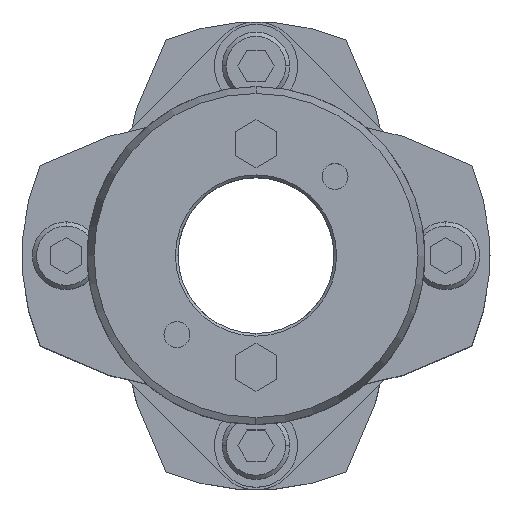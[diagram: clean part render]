
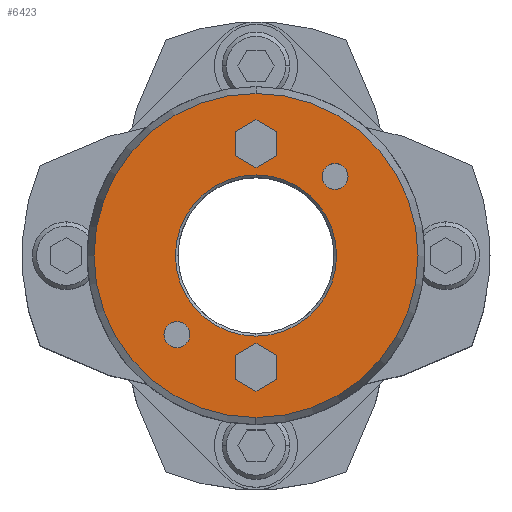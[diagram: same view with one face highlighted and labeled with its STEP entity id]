
A CAD part, top view. The second image highlights one B-rep face of the part: STEP entity #6423.
In plain terms, the highlighted planar face has unit normal (0, 0, 1).
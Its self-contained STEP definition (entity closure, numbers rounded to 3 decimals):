
#1677=CARTESIAN_POINT('',(0.,15.5,52.0));
#1678=VERTEX_POINT('',#1677);
#1694=CARTESIAN_POINT('',(0.,-15.5,52.0));
#1695=VERTEX_POINT('',#1694);
#1702=CARTESIAN_POINT('',(0.,0.,52.0));
#1703=DIRECTION('',(0.0,0.0,1.0));
#1704=DIRECTION('',(0.0,1.0,0.0));
#1705=AXIS2_PLACEMENT_3D('',#1702,#1703,#1704);
#1706=CIRCLE('',#1705,15.5);
#1707=EDGE_CURVE('',#1695,#1678,#1706,.T.);
#1823=CARTESIAN_POINT('',(0.,-31.16,52.0));
#1824=VERTEX_POINT('',#1823);
#1833=CARTESIAN_POINT('',(0.,31.16,52.0));
#1834=VERTEX_POINT('',#1833);
#1835=CARTESIAN_POINT('',(0.,0.,52.0));
#1836=DIRECTION('',(0.0,0.0,-1.0));
#1837=DIRECTION('',(0.0,-1.0,0.0));
#1838=AXIS2_PLACEMENT_3D('',#1835,#1836,#1837);
#1839=CIRCLE('',#1838,31.16);
#1840=EDGE_CURVE('',#1824,#1834,#1839,.T.);
#2157=CARTESIAN_POINT('',(15.203,17.703,52.0));
#2158=VERTEX_POINT('',#2157);
#2174=CARTESIAN_POINT('',(15.203,12.703,52.0));
#2175=VERTEX_POINT('',#2174);
#2182=CARTESIAN_POINT('',(15.203,15.203,52.0));
#2183=DIRECTION('',(0.0,0.0,-1.0));
#2184=DIRECTION('',(0.0,1.0,0.0));
#2185=AXIS2_PLACEMENT_3D('',#2182,#2183,#2184);
#2186=CIRCLE('',#2185,2.5);
#2187=EDGE_CURVE('',#2158,#2175,#2186,.T.);
#2199=CARTESIAN_POINT('',(-15.203,-12.703,52.0));
#2200=VERTEX_POINT('',#2199);
#2216=CARTESIAN_POINT('',(-15.203,-17.703,52.0));
#2217=VERTEX_POINT('',#2216);
#2224=CARTESIAN_POINT('',(-15.203,-15.203,52.0));
#2225=DIRECTION('',(0.0,0.0,-1.0));
#2226=DIRECTION('',(0.0,1.0,0.0));
#2227=AXIS2_PLACEMENT_3D('',#2224,#2225,#2226);
#2228=CIRCLE('',#2227,2.5);
#2229=EDGE_CURVE('',#2200,#2217,#2228,.T.);
#5029=CARTESIAN_POINT('',(0.,-16.881,52.0));
#5030=VERTEX_POINT('',#5029);
#5037=CARTESIAN_POINT('',(-4.,-19.191,52.0));
#5038=VERTEX_POINT('',#5037);
#5039=CARTESIAN_POINT('',(-4.,-19.191,52.0));
#5040=DIRECTION('',(0.866,0.5,0.0));
#5041=VECTOR('',#5040,4.619);
#5042=LINE('',#5039,#5041);
#5043=EDGE_CURVE('',#5038,#5030,#5042,.T.);
#5067=CARTESIAN_POINT('',(4.,-19.191,52.0));
#5068=VERTEX_POINT('',#5067);
#5075=CARTESIAN_POINT('',(0.,-16.881,52.0));
#5076=DIRECTION('',(0.866,-0.5,0.0));
#5077=VECTOR('',#5076,4.619);
#5078=LINE('',#5075,#5077);
#5079=EDGE_CURVE('',#5030,#5068,#5078,.T.);
#5098=CARTESIAN_POINT('',(4.,-23.809,52.0));
#5099=VERTEX_POINT('',#5098);
#5106=CARTESIAN_POINT('',(4.,-19.191,52.0));
#5107=DIRECTION('',(0.0,-1.0,0.0));
#5108=VECTOR('',#5107,4.619);
#5109=LINE('',#5106,#5108);
#5110=EDGE_CURVE('',#5068,#5099,#5109,.T.);
#5129=CARTESIAN_POINT('',(0.,-26.119,52.0));
#5130=VERTEX_POINT('',#5129);
#5137=CARTESIAN_POINT('',(4.,-23.809,52.0));
#5138=DIRECTION('',(-0.866,-0.5,0.0));
#5139=VECTOR('',#5138,4.619);
#5140=LINE('',#5137,#5139);
#5141=EDGE_CURVE('',#5099,#5130,#5140,.T.);
#5160=CARTESIAN_POINT('',(-4.,-23.809,52.0));
#5161=VERTEX_POINT('',#5160);
#5168=CARTESIAN_POINT('',(0.,-26.119,52.0));
#5169=DIRECTION('',(-0.866,0.5,0.0));
#5170=VECTOR('',#5169,4.619);
#5171=LINE('',#5168,#5170);
#5172=EDGE_CURVE('',#5130,#5161,#5171,.T.);
#5190=CARTESIAN_POINT('',(-4.,-23.809,52.0));
#5191=DIRECTION('',(0.0,1.0,0.0));
#5192=VECTOR('',#5191,4.619);
#5193=LINE('',#5190,#5192);
#5194=EDGE_CURVE('',#5161,#5038,#5193,.T.);
#5229=CARTESIAN_POINT('',(0.,26.119,52.0));
#5230=VERTEX_POINT('',#5229);
#5237=CARTESIAN_POINT('',(-4.,23.809,52.0));
#5238=VERTEX_POINT('',#5237);
#5239=CARTESIAN_POINT('',(-4.,23.809,52.0));
#5240=DIRECTION('',(0.866,0.5,0.0));
#5241=VECTOR('',#5240,4.619);
#5242=LINE('',#5239,#5241);
#5243=EDGE_CURVE('',#5238,#5230,#5242,.T.);
#5267=CARTESIAN_POINT('',(4.,23.809,52.0));
#5268=VERTEX_POINT('',#5267);
#5275=CARTESIAN_POINT('',(0.,26.119,52.0));
#5276=DIRECTION('',(0.866,-0.5,0.0));
#5277=VECTOR('',#5276,4.619);
#5278=LINE('',#5275,#5277);
#5279=EDGE_CURVE('',#5230,#5268,#5278,.T.);
#5298=CARTESIAN_POINT('',(4.,19.191,52.0));
#5299=VERTEX_POINT('',#5298);
#5306=CARTESIAN_POINT('',(4.,23.809,52.0));
#5307=DIRECTION('',(0.0,-1.0,0.0));
#5308=VECTOR('',#5307,4.619);
#5309=LINE('',#5306,#5308);
#5310=EDGE_CURVE('',#5268,#5299,#5309,.T.);
#5329=CARTESIAN_POINT('',(0.,16.881,52.0));
#5330=VERTEX_POINT('',#5329);
#5337=CARTESIAN_POINT('',(4.,19.191,52.0));
#5338=DIRECTION('',(-0.866,-0.5,0.0));
#5339=VECTOR('',#5338,4.619);
#5340=LINE('',#5337,#5339);
#5341=EDGE_CURVE('',#5299,#5330,#5340,.T.);
#5360=CARTESIAN_POINT('',(-4.,19.191,52.0));
#5361=VERTEX_POINT('',#5360);
#5368=CARTESIAN_POINT('',(0.,16.881,52.0));
#5369=DIRECTION('',(-0.866,0.5,0.0));
#5370=VECTOR('',#5369,4.619);
#5371=LINE('',#5368,#5370);
#5372=EDGE_CURVE('',#5330,#5361,#5371,.T.);
#5390=CARTESIAN_POINT('',(-4.,19.191,52.0));
#5391=DIRECTION('',(0.0,1.0,0.0));
#5392=VECTOR('',#5391,4.619);
#5393=LINE('',#5390,#5392);
#5394=EDGE_CURVE('',#5361,#5238,#5393,.T.);
#5420=CARTESIAN_POINT('',(-15.203,-15.203,52.0));
#5421=DIRECTION('',(0.0,0.0,-1.0));
#5422=DIRECTION('',(0.0,1.0,0.0));
#5423=AXIS2_PLACEMENT_3D('',#5420,#5421,#5422);
#5424=CIRCLE('',#5423,2.5);
#5425=EDGE_CURVE('',#2217,#2200,#5424,.T.);
#5454=CARTESIAN_POINT('',(15.203,15.203,52.0));
#5455=DIRECTION('',(0.0,0.0,-1.0));
#5456=DIRECTION('',(0.0,1.0,0.0));
#5457=AXIS2_PLACEMENT_3D('',#5454,#5455,#5456);
#5458=CIRCLE('',#5457,2.5);
#5459=EDGE_CURVE('',#2175,#2158,#5458,.T.);
#6370=CARTESIAN_POINT('',(0.,0.,52.0));
#6371=DIRECTION('',(0.0,0.0,-1.0));
#6372=DIRECTION('',(0.0,-1.0,0.0));
#6373=AXIS2_PLACEMENT_3D('',#6370,#6371,#6372);
#6374=CIRCLE('',#6373,31.16);
#6375=EDGE_CURVE('',#1834,#1824,#6374,.T.);
#6380=CARTESIAN_POINT('',(0.,2.682,52.0));
#6381=DIRECTION('',(0.0,0.0,1.0));
#6382=DIRECTION('',(0.0,1.0,0.0));
#6383=AXIS2_PLACEMENT_3D('',#6380,#6381,#6382);
#6384=PLANE('',#6383);
#6385=ORIENTED_EDGE('',*,*,#6375,.F.);
#6386=ORIENTED_EDGE('',*,*,#1840,.F.);
#6387=EDGE_LOOP('',(#6385,#6386));
#6388=FACE_OUTER_BOUND('',#6387,.T.);
#6389=ORIENTED_EDGE('',*,*,#5043,.T.);
#6390=ORIENTED_EDGE('',*,*,#5079,.T.);
#6391=ORIENTED_EDGE('',*,*,#5110,.T.);
#6392=ORIENTED_EDGE('',*,*,#5141,.T.);
#6393=ORIENTED_EDGE('',*,*,#5172,.T.);
#6394=ORIENTED_EDGE('',*,*,#5194,.T.);
#6395=EDGE_LOOP('',(#6389,#6390,#6391,#6392,#6393,#6394));
#6396=FACE_BOUND('',#6395,.T.);
#6397=ORIENTED_EDGE('',*,*,#5243,.T.);
#6398=ORIENTED_EDGE('',*,*,#5279,.T.);
#6399=ORIENTED_EDGE('',*,*,#5310,.T.);
#6400=ORIENTED_EDGE('',*,*,#5341,.T.);
#6401=ORIENTED_EDGE('',*,*,#5372,.T.);
#6402=ORIENTED_EDGE('',*,*,#5394,.T.);
#6403=EDGE_LOOP('',(#6397,#6398,#6399,#6400,#6401,#6402));
#6404=FACE_BOUND('',#6403,.T.);
#6405=ORIENTED_EDGE('',*,*,#2229,.T.);
#6406=ORIENTED_EDGE('',*,*,#5425,.T.);
#6407=EDGE_LOOP('',(#6405,#6406));
#6408=FACE_BOUND('',#6407,.T.);
#6409=ORIENTED_EDGE('',*,*,#2187,.T.);
#6410=ORIENTED_EDGE('',*,*,#5459,.T.);
#6411=EDGE_LOOP('',(#6409,#6410));
#6412=FACE_BOUND('',#6411,.T.);
#6413=ORIENTED_EDGE('',*,*,#1707,.F.);
#6414=CARTESIAN_POINT('',(0.,0.,52.0));
#6415=DIRECTION('',(0.0,0.0,1.0));
#6416=DIRECTION('',(0.0,1.0,0.0));
#6417=AXIS2_PLACEMENT_3D('',#6414,#6415,#6416);
#6418=CIRCLE('',#6417,15.5);
#6419=EDGE_CURVE('',#1678,#1695,#6418,.T.);
#6420=ORIENTED_EDGE('',*,*,#6419,.F.);
#6421=EDGE_LOOP('',(#6413,#6420));
#6422=FACE_BOUND('',#6421,.T.);
#6423=ADVANCED_FACE('',(#6388,#6396,#6404,#6408,#6412,#6422),#6384,.T.);
